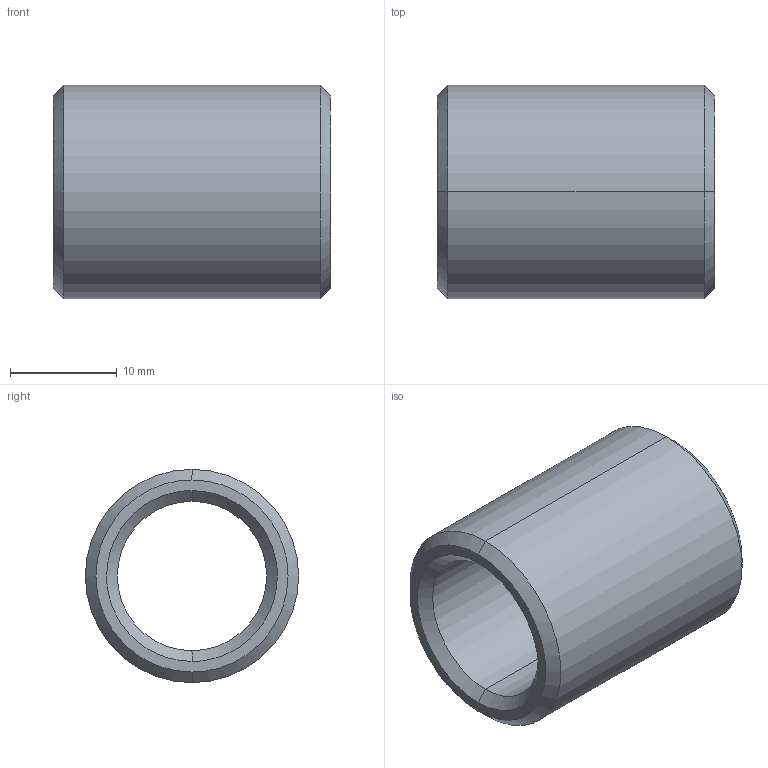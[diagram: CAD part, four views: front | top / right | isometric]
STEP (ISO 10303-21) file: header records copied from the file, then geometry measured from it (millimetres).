
FILE_DESCRIPTION(('CATIA V5 STEP Exchange'),'2;1');
FILE_NAME('C:\Users\Utente\Desktop\IO LAVORO\3D X SITO CF\X SITO\PLASTICA\352\352-14X26.stp','2021-04-10T09:20:28+00:00',('none'),('none'),'CATIA Version 5 Release 20 GA (IN-10)','CATIA V5 STEP AP203','none');
FILE_SCHEMA(('CONFIG_CONTROL_DESIGN'));
Length unit declared in the file: millimetre
Products named in the file (1): 352-14X26
Bounding box: 26 x 20 x 20 mm (x, y, z)
Volume: 4072.2 mm3; surface area: 2978.5 mm2
Topology: 1 solids, 1 shells, 14 faces, 44 edges, 32 vertices
Faces by surface type: cone 6, cylinder 4, plane 2, torus 2
Entity records: 634 total; most frequent: CARTESIAN_POINT 203, ORIENTED_EDGE 88, DIRECTION 64, EDGE_CURVE 44, AXIS2_PLACEMENT_3D 41, VERTEX_POINT 32, CIRCLE 26, EDGE_LOOP 16
